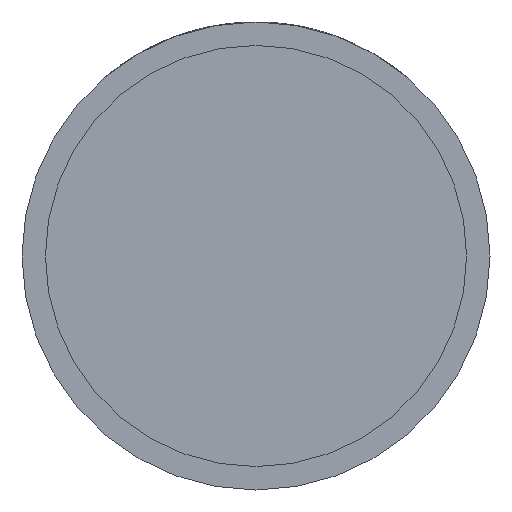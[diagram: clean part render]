
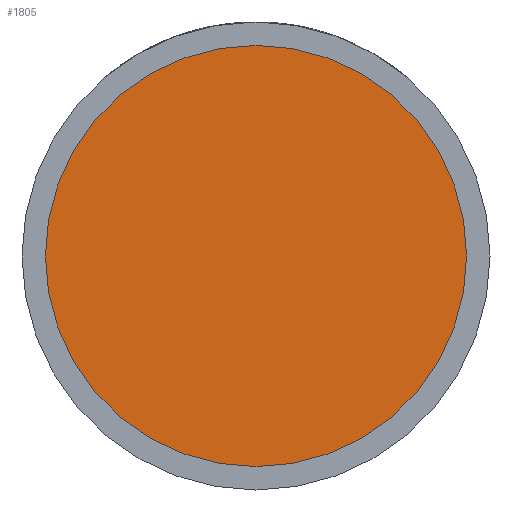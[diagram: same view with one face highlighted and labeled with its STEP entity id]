
A CAD part, front view. The second image highlights one B-rep face of the part: STEP entity #1805.
In plain terms, the highlighted planar face has unit normal (0, -1, 0).
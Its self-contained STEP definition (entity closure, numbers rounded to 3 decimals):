
#106 = AXIS2_PLACEMENT_3D ( 'NONE', #1726, #1052, #2352 ) ;
#287 = DIRECTION ( 'NONE',  ( 1., 0., 0. ) ) ;
#325 = ORIENTED_EDGE ( 'NONE', *, *, #3991, .T. ) ;
#475 = EDGE_LOOP ( 'NONE', ( #2362, #325 ) ) ;
#922 = AXIS2_PLACEMENT_3D ( 'NONE', #1420, #1445, #2694 ) ;
#970 = CARTESIAN_POINT ( 'NONE',  ( 13.5, -15., 0. ) ) ;
#1052 = DIRECTION ( 'NONE',  ( 0., -1., 0. ) ) ;
#1110 = PLANE ( 'NONE',  #106 ) ;
#1420 = CARTESIAN_POINT ( 'NONE',  ( 0., -15., 0. ) ) ;
#1445 = DIRECTION ( 'NONE',  ( 0., -1., 0. ) ) ;
#1623 = VERTEX_POINT ( 'NONE', #970 ) ;
#1726 = CARTESIAN_POINT ( 'NONE',  ( 13.5, -15., 0. ) ) ;
#1805 = ADVANCED_FACE ( 'NONE', ( #3579 ), #1110, .T. ) ;
#2352 = DIRECTION ( 'NONE',  ( 1., 0., 0. ) ) ;
#2362 = ORIENTED_EDGE ( 'NONE', *, *, #3815, .T. ) ;
#2393 = CARTESIAN_POINT ( 'NONE',  ( -13.5, -15., 0. ) ) ;
#2694 = DIRECTION ( 'NONE',  ( 1., 0., 0. ) ) ;
#3149 = CARTESIAN_POINT ( 'NONE',  ( 0., -15., 0. ) ) ;
#3260 = CIRCLE ( 'NONE', #922, 13.5 ) ;
#3352 = VERTEX_POINT ( 'NONE', #2393 ) ;
#3385 = AXIS2_PLACEMENT_3D ( 'NONE', #3149, #3777, #287 ) ;
#3579 = FACE_OUTER_BOUND ( 'NONE', #475, .T. ) ;
#3777 = DIRECTION ( 'NONE',  ( 0., -1., 0. ) ) ;
#3815 = EDGE_CURVE ( 'NONE', #1623, #3352, #4128, .T. ) ;
#3991 = EDGE_CURVE ( 'NONE', #3352, #1623, #3260, .T. ) ;
#4128 = CIRCLE ( 'NONE', #3385, 13.5 ) ;
